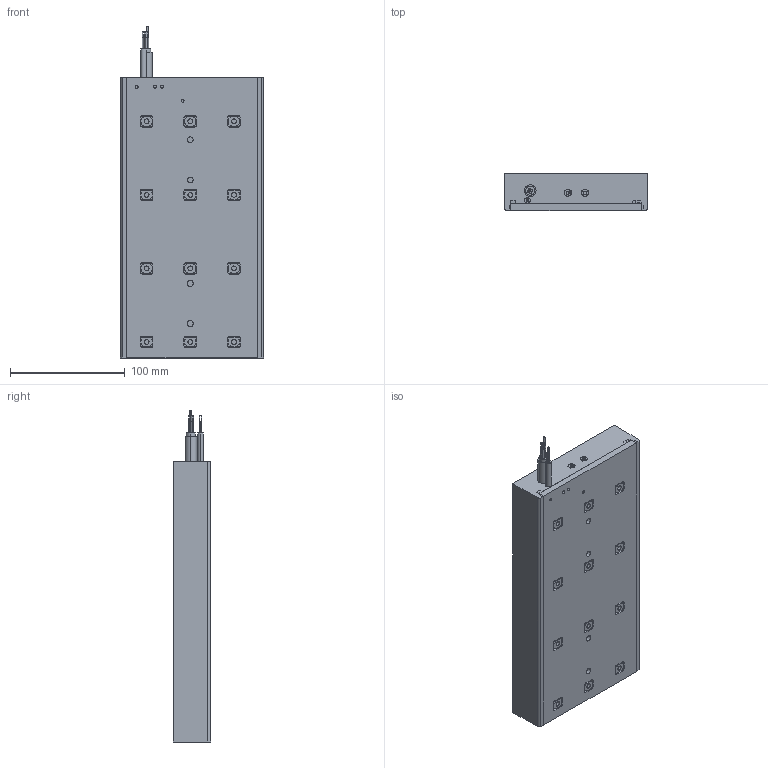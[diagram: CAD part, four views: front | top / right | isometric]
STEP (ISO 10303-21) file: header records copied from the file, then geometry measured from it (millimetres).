
FILE_DESCRIPTION (( 'STEP AP203' ), '1' );
FILE_NAME ('IC12-124 assembly 3D.STEP', '2020-10-28T12:03:05', ( '' ), ( '' ), 'SwSTEP 2.0', 'SolidWorks 2018', '' );
FILE_SCHEMA (( 'CONFIG_CONTROL_DESIGN' ));
Length unit declared in the file: millimetre
Products named in the file (7): M3 nut hall module for 3D CU; IC12-124 resin; IC-124 dovetail rounded; IC12-124 housing; sensor cable 3D; power cable IC124 10.1mm 3D; IC12-124 assembly 3D
Assembly tree (10 placements, depth 2):
  IC12-124 assembly 3D
    IC12-124 housing
    IC-124 dovetail rounded  x4
    IC12-124 resin
    M3 nut hall module for 3D CU  x2
    power cable IC124 10.1mm 3D
    sensor cable 3D
Bounding box: 125.15 x 32.4 x 289 mm (x, y, z)
Volume: 992301 mm3; surface area: 168685.6 mm2
Topology: 10 solids, 10 shells, 659 faces, 1818 edges, 1180 vertices
Faces by surface type: plane 311, cylinder 310, torus 26, sphere 12
Entity records: 14256 total; most frequent: DIRECTION 2415, CARTESIAN_POINT 2371, ORIENTED_EDGE 2280, EDGE_CURVE 1140, AXIS2_PLACEMENT_3D 864, VERTEX_POINT 748, VECTOR 687, LINE 687
